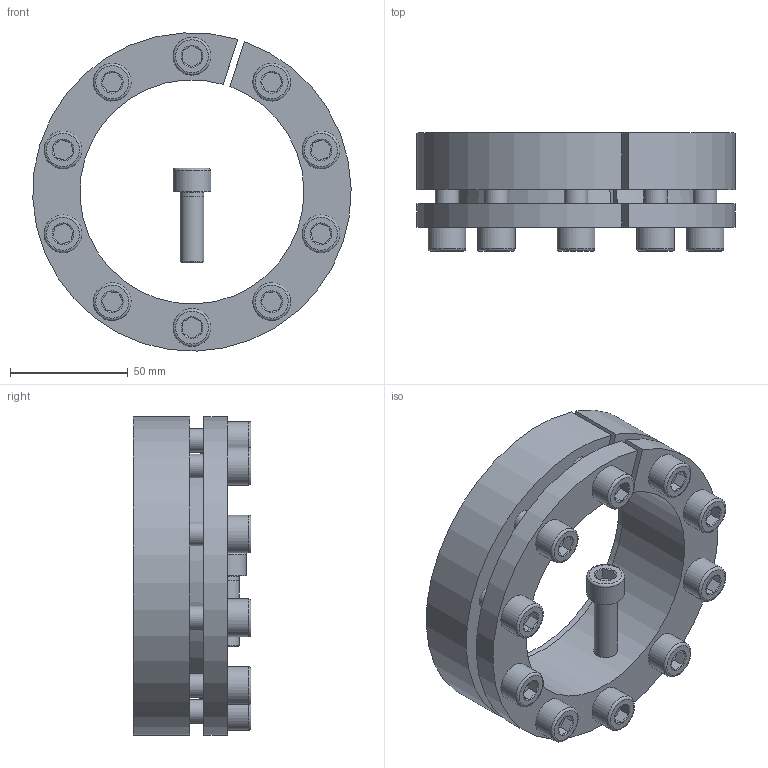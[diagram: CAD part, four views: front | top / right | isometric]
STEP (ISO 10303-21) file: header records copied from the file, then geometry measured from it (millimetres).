
FILE_DESCRIPTION( ( 'Unknown' ), '1' );
FILE_NAME( 'C:/Dokumente und Einstellungen/Sven/Desktop/homepage/cad - homepage/KBS13/KBS 13 - 95 x 135.stp', 'Unknown', ( 'Unknown' ), ( 'Unknown' ), 'XStep 1.0', 'Unknown', ' ' );
FILE_SCHEMA( ( 'automotive_design' ) );
Length unit declared in the file: millimetre
Products named in the file (3): Assem1; KBS 13 - 95 x 135; ISO EN DIN 4762 M10x30
Bounding box: 134.92 x 50 x 134.86 mm (x, y, z)
Volume: 492591.8 mm3; surface area: 148343.7 mm2
Topology: 13 solids, 13 shells, 339 faces, 693 edges, 424 vertices
Faces by surface type: plane 146, cylinder 90, cone 81, torus 22
Full cylindrical faces by diameter (mm): 9 x11, 10 x62, 16 x11
Entity records: 1922 total; most frequent: CARTESIAN_POINT 315, DIRECTION 300, ORIENTED_EDGE 210, AXIS2_PLACEMENT_3D 136, EDGE_LOOP 128, EDGE_CURVE 105, FACE_OUTER_BOUND 83, VERTEX_POINT 83
